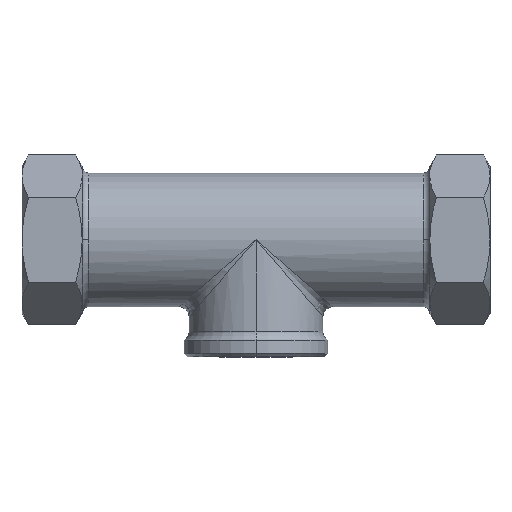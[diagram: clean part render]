
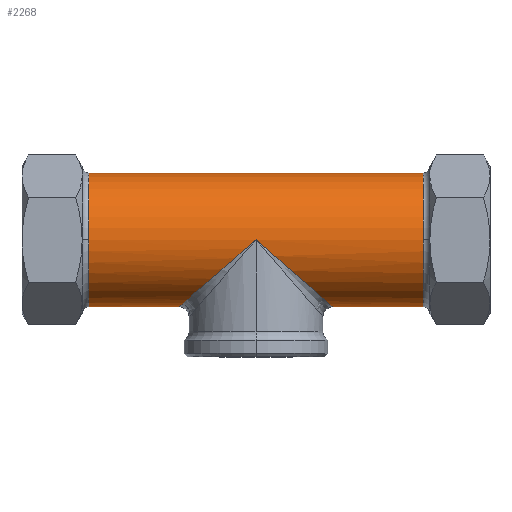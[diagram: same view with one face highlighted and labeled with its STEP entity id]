
A CAD part, top view. The second image highlights one B-rep face of the part: STEP entity #2268.
In plain terms, the highlighted cylindrical face has radius 20 mm (diameter 40 mm), a partial arc.
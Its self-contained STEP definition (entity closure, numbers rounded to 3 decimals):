
#38 = VERTEX_POINT ( 'NONE', #79 ) ;
#62 = VERTEX_POINT ( 'NONE', #1974 ) ;
#63 = CARTESIAN_POINT ( 'NONE',  ( 23., -20., 0. ) ) ;
#71 = ORIENTED_EDGE ( 'NONE', *, *, #948, .F. ) ;
#79 = CARTESIAN_POINT ( 'NONE',  ( -50., 20., 0. ) ) ;
#85 = ORIENTED_EDGE ( 'NONE', *, *, #1890, .T. ) ;
#94 = DIRECTION ( 'NONE',  ( 1., 0., 0. ) ) ;
#106 = VECTOR ( 'NONE', #1373, 1000. ) ;
#121 = CARTESIAN_POINT ( 'NONE',  ( -13.473, -11.716, 20. ) ) ;
#129 = CARTESIAN_POINT ( 'NONE',  ( -50., -20., 0. ) ) ;
#160 = DIRECTION ( 'NONE',  ( -1., 0., 0. ) ) ;
#199 = EDGE_CURVE ( 'NONE', #998, #38, #1249, .T. ) ;
#272 = VERTEX_POINT ( 'NONE', #1888 ) ;
#288 = VECTOR ( 'NONE', #340, 1000. ) ;
#340 = DIRECTION ( 'NONE',  ( -1., 0., 0. ) ) ;
#344 = CARTESIAN_POINT ( 'NONE',  ( -70., -20., 0. ) ) ;
#351 = EDGE_CURVE ( 'NONE', #2338, #421, #794, .T. ) ;
#352 = CARTESIAN_POINT ( 'NONE',  ( -50., 0., 0. ) ) ;
#389 =( BOUNDED_CURVE ( )  B_SPLINE_CURVE ( 3, ( #871, #493, #121, #1219 ),
 .UNSPECIFIED., .F., .F. ) 
 B_SPLINE_CURVE_WITH_KNOTS ( ( 4, 4 ),
 ( 0., 1.571 ),
 .UNSPECIFIED. ) 
 CURVE ( )  GEOMETRIC_REPRESENTATION_ITEM ( )  RATIONAL_B_SPLINE_CURVE ( ( 1., 0.805, 0.805, 1. ) ) 
 REPRESENTATION_ITEM ( '' )  );
#421 = VERTEX_POINT ( 'NONE', #63 ) ;
#424 = EDGE_CURVE ( 'NONE', #62, #789, #1087, .T. ) ;
#444 = VECTOR ( 'NONE', #160, 1000. ) ;
#455 = DIRECTION ( 'NONE',  ( 0., 0., 1. ) ) ;
#480 = DIRECTION ( 'NONE',  ( 0., 0., -1. ) ) ;
#492 = CARTESIAN_POINT ( 'NONE',  ( -70., -20., 0. ) ) ;
#493 = CARTESIAN_POINT ( 'NONE',  ( -23., -20., 11.716 ) ) ;
#525 = AXIS2_PLACEMENT_3D ( 'NONE', #352, #2188, #547 ) ;
#547 = DIRECTION ( 'NONE',  ( 0., 0., 1. ) ) ;
#617 = CARTESIAN_POINT ( 'NONE',  ( 50., 0., 0. ) ) ;
#731 = DIRECTION ( 'NONE',  ( 0., -1., 0. ) ) ;
#789 = VERTEX_POINT ( 'NONE', #1931 ) ;
#794 =( BOUNDED_CURVE ( )  B_SPLINE_CURVE ( 3, ( #1195, #1923, #1352, #808 ),
 .UNSPECIFIED., .F., .F. ) 
 B_SPLINE_CURVE_WITH_KNOTS ( ( 4, 4 ),
 ( 1.571, 3.142 ),
 .UNSPECIFIED. ) 
 CURVE ( )  GEOMETRIC_REPRESENTATION_ITEM ( )  RATIONAL_B_SPLINE_CURVE ( ( 1., 0.805, 0.805, 1. ) ) 
 REPRESENTATION_ITEM ( '' )  );
#808 = CARTESIAN_POINT ( 'NONE',  ( 23., -20., 0. ) ) ;
#855 = CARTESIAN_POINT ( 'NONE',  ( -50., 0., 20. ) ) ;
#864 = EDGE_CURVE ( 'NONE', #38, #986, #1942, .T. ) ;
#869 = CIRCLE ( 'NONE', #525, 20. ) ;
#871 = CARTESIAN_POINT ( 'NONE',  ( -23., -20., 0. ) ) ;
#912 = DIRECTION ( 'NONE',  ( -1., 0., 0. ) ) ;
#933 = EDGE_CURVE ( 'NONE', #789, #998, #1748, .T. ) ;
#948 = EDGE_CURVE ( 'NONE', #62, #421, #1993, .T. ) ;
#951 = ORIENTED_EDGE ( 'NONE', *, *, #993, .T. ) ;
#957 = CARTESIAN_POINT ( 'NONE',  ( 0., 0., 20. ) ) ;
#961 = ORIENTED_EDGE ( 'NONE', *, *, #933, .T. ) ;
#986 = VERTEX_POINT ( 'NONE', #855 ) ;
#988 = ORIENTED_EDGE ( 'NONE', *, *, #199, .T. ) ;
#993 = EDGE_CURVE ( 'NONE', #272, #2338, #389, .T. ) ;
#995 = DIRECTION ( 'NONE',  ( -1., 0., 0. ) ) ;
#998 = VERTEX_POINT ( 'NONE', #1616 ) ;
#1087 = CIRCLE ( 'NONE', #1664, 20. ) ;
#1090 = FACE_OUTER_BOUND ( 'NONE', #2074, .T. ) ;
#1157 = ORIENTED_EDGE ( 'NONE', *, *, #1719, .F. ) ;
#1195 = CARTESIAN_POINT ( 'NONE',  ( 0., 0., 20. ) ) ;
#1219 = CARTESIAN_POINT ( 'NONE',  ( 0., 0., 20. ) ) ;
#1249 = LINE ( 'NONE', #1989, #288 ) ;
#1267 = ORIENTED_EDGE ( 'NONE', *, *, #424, .T. ) ;
#1352 = CARTESIAN_POINT ( 'NONE',  ( 23., -20., 11.716 ) ) ;
#1373 = DIRECTION ( 'NONE',  ( -1., 0., 0. ) ) ;
#1417 = DIRECTION ( 'NONE',  ( -1., 0., 0. ) ) ;
#1476 = AXIS2_PLACEMENT_3D ( 'NONE', #1862, #912, #731 ) ;
#1519 = CARTESIAN_POINT ( 'NONE',  ( -50., 0., 0. ) ) ;
#1616 = CARTESIAN_POINT ( 'NONE',  ( 50., 20., 0. ) ) ;
#1628 = CARTESIAN_POINT ( 'NONE',  ( 50., 0., 0. ) ) ;
#1664 = AXIS2_PLACEMENT_3D ( 'NONE', #617, #995, #480 ) ;
#1719 = EDGE_CURVE ( 'NONE', #272, #2041, #2332, .T. ) ;
#1748 = CIRCLE ( 'NONE', #2060, 20. ) ;
#1829 = CYLINDRICAL_SURFACE ( 'NONE', #1476, 20. ) ;
#1862 = CARTESIAN_POINT ( 'NONE',  ( -70., 0., 0. ) ) ;
#1888 = CARTESIAN_POINT ( 'NONE',  ( -23., -20., 0. ) ) ;
#1890 = EDGE_CURVE ( 'NONE', #986, #2041, #869, .T. ) ;
#1923 = CARTESIAN_POINT ( 'NONE',  ( 13.473, -11.716, 20. ) ) ;
#1931 = CARTESIAN_POINT ( 'NONE',  ( 50., 0., 20. ) ) ;
#1942 = CIRCLE ( 'NONE', #2019, 20. ) ;
#1958 = DIRECTION ( 'NONE',  ( 0., 0., -1. ) ) ;
#1974 = CARTESIAN_POINT ( 'NONE',  ( 50., -20., 0. ) ) ;
#1989 = CARTESIAN_POINT ( 'NONE',  ( -70., 20., 0. ) ) ;
#1993 = LINE ( 'NONE', #344, #444 ) ;
#2009 = ORIENTED_EDGE ( 'NONE', *, *, #351, .T. ) ;
#2019 = AXIS2_PLACEMENT_3D ( 'NONE', #1519, #94, #455 ) ;
#2041 = VERTEX_POINT ( 'NONE', #129 ) ;
#2060 = AXIS2_PLACEMENT_3D ( 'NONE', #1628, #1417, #1958 ) ;
#2074 = EDGE_LOOP ( 'NONE', ( #1267, #961, #988, #2254, #85, #1157, #951, #2009, #71 ) ) ;
#2188 = DIRECTION ( 'NONE',  ( 1., 0., 0. ) ) ;
#2254 = ORIENTED_EDGE ( 'NONE', *, *, #864, .T. ) ;
#2268 = ADVANCED_FACE ( 'NONE', ( #1090 ), #1829, .T. ) ;
#2332 = LINE ( 'NONE', #492, #106 ) ;
#2338 = VERTEX_POINT ( 'NONE', #957 ) ;
